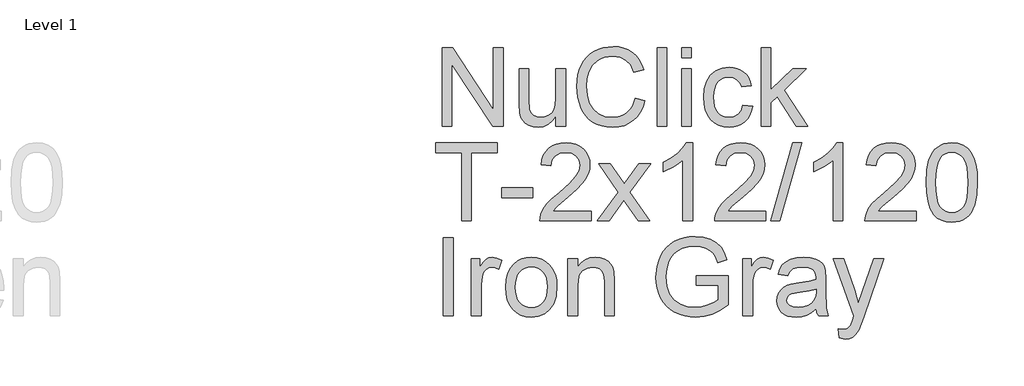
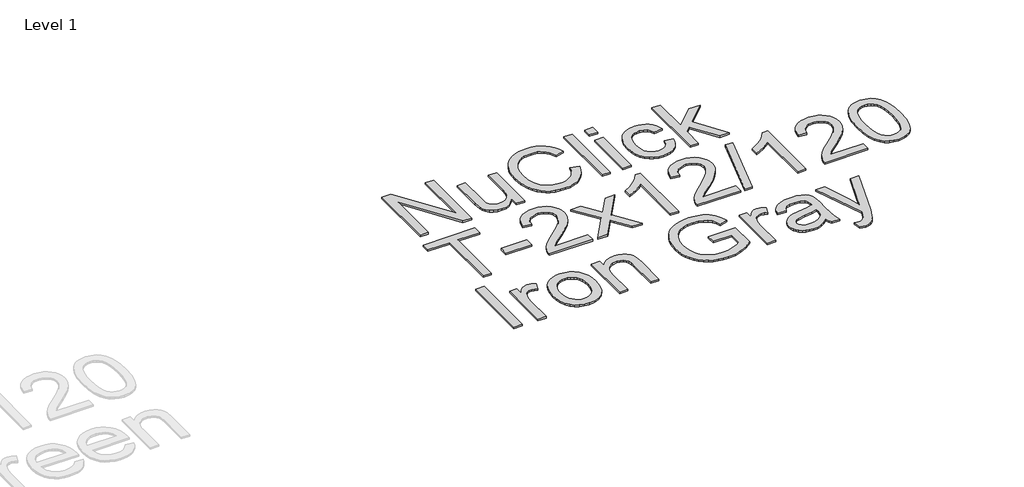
# One storey, part 10 of 13: 1 proxy.
"""IFC4 building model written with IfcOpenShell, lengths in millimetres."""

from ifc_helpers import new_model, si_unit, frame, origin, place, context, project, spatial, polyline, outline, extrude, element, save

model = new_model("IFC4")

# Units and contexts
model_context = context("Model", 3, world=origin())
ifc_project = project(units=[si_unit("LENGTHUNIT", "METRE", prefix="MILLI")], contexts=[model_context])

# Site, building, storey
site = spatial("IfcSite", under=ifc_project)
building = spatial("IfcBuilding", under=site)
storey = spatial("IfcBuildingStorey", under=building, Name="Level 1", Elevation=4000.0)

# Proxy
placement = place(None, origin())
element("IfcBuildingElementProxy", 1, Name="Elysium 400mm Arial", ObjectType="Elysium 400mm Arial", at=placement, inside=storey, context=model_context, shape_type="SweptSolid", body=[
    extrude(outline(polyline([(48183.147161, -9059.2083157), (48183.147161, -8657.3830752), (48236.9069832, -8657.3830752), (48446.8449751, -8975.7236283), (48446.8449751, -8657.3830752), (48497.0731302, -8657.3830752), (48497.0731302, -9059.2083157), (48443.313308, -9059.2083157), (48233.3753161, -8740.7696607), (48233.3753161, -9059.2083157), (48183.147161, -9059.2083157)])), frame((0.0, 0.0, 4000.0), z_axis=(0.0, 0.0, 1.0), x_axis=(1.0, 0.0, 0.0)), (0.0, 0.0, 1.0), 10.0),
    extrude(outline(polyline([(48767.0494637, -9059.2083157), (48767.0494637, -9008.4896513), (48748.8760932, -9033.4259193), (48727.7106157, -9051.2375392), (48703.5530314, -9061.9245111), (48676.4033401, -9065.4868351), (48651.9391875, -9062.9852376), (48629.167292, -9055.4804449), (48610.0619537, -9044.1987303), (48596.5974726, -9030.3663673), (48587.5353128, -9013.5664229), (48581.6369382, -8993.3819641), (48578.6938822, -8946.6854762), (48578.6938822, -8764.1179047), (48628.9220373, -8764.1179047), (48628.9220373, -8923.0429266), (48631.9631951, -8974.2521003), (48639.2840468, -8991.3340876), (48651.8288229, -9004.3203221), (48668.7636574, -9012.5240906), (48689.2546845, -9015.2586801), (48710.922934, -9012.4627769), (48731.1932319, -9004.0750674), (48747.9073373, -8990.8681038), (48758.9070089, -8973.6144382), (48765.01385, -8949.9841514), (48767.0494637, -8917.647324), (48767.0494637, -8764.1179047), (48817.2776188, -8764.1179047), (48817.2776188, -9059.2083157), (48767.0494637, -9059.2083157)])), frame((0.0, 0.0, 4000.0), z_axis=(0.0, 0.0, 1.0), x_axis=(1.0, 0.0, 0.0)), (0.0, 0.0, 1.0), 10.0),
    extrude(outline(polyline([(49175.1532237, -8916.3719998), (49225.3813788, -8929.321446), (49215.4424336, -8960.5576931), (49202.2048131, -8987.8514714), (49185.6685174, -9011.2027811), (49165.8335465, -9030.611622), (49143.1474901, -9045.8695277), (49118.0579381, -9056.7680318), (49090.5648903, -9063.3071343), (49060.6683468, -9065.4868351), (49030.039105, -9063.8374975), (49002.4081015, -9058.8894847), (48977.7753363, -9050.6427966), (48956.1408093, -9039.0974333), (48937.2071492, -9024.4250731), (48920.6769849, -9006.7973942), (48906.5503163, -8986.2143965), (48894.8271434, -8962.6760802), (48879.0450058, -8910.8047189), (48873.7842933, -8855.2545376), (48879.7317189, -8796.6631985), (48887.1660009, -8770.3657672), (48897.5739956, -8746.0671615), (48910.7227113, -8724.1689857), (48926.3791559, -8705.0728445), (48944.5433294, -8688.7787378), (48965.2152318, -8675.2866656), (48987.6928217, -8664.7069925), (49011.2740576, -8657.1500832), (49061.7474673, -8651.1045558), (49090.4759855, -8653.0604617), (49116.819402, -8658.9281795), (49140.777717, -8668.7077092), (49162.3509303, -8682.3990508), (49181.1834228, -8699.6404537), (49196.9195751, -8720.0701671), (49209.5593873, -8743.6881912), (49219.1028594, -8770.4945259), (49168.8747043, -8782.4629535), (49151.4616232, -8745.8341695), (49127.6719209, -8720.7078293), (49097.2112917, -8706.1764904), (49059.78543, -8701.3327108), (49016.6451347, -8706.703788), (48997.9628608, -8713.4176344), (48981.2058359, -8722.8170194), (48954.313662, -8747.9801478), (48936.8147418, -8780.5009162), (48927.2130217, -8817.2645903), (48924.0124484, -8855.1564358), (48927.8016329, -8901.5586181), (48939.1691866, -8941.682281), (48958.544305, -8973.9945829), (48986.3561838, -8996.9626822), (49019.6985553, -9010.6846806), (49055.6651517, -9015.2586801), (49077.5020138, -9013.7013129), (49097.5914364, -9009.0292116), (49115.9334196, -9001.242376), (49132.5279632, -8990.3408063), (49146.9826599, -8976.3735532), (49158.9051023, -8959.3896677), (49168.2952902, -8939.3891499), (49175.1532237, -8916.3719998)])), frame((0.0, 0.0, 4000.0), z_axis=(0.0, 0.0, 1.0), x_axis=(1.0, 0.0, 0.0)), (0.0, 0.0, 1.0), 10.0),
    extrude(outline(polyline([(49288.1665726, -9059.2083157), (49288.1665726, -8657.3830752), (49338.3947277, -8657.3830752), (49338.3947277, -9059.2083157), (49288.1665726, -9059.2083157)])), frame((0.0, 0.0, 4000.0), z_axis=(0.0, 0.0, 1.0), x_axis=(1.0, 0.0, 0.0)), (0.0, 0.0, 1.0), 10.0),
    extrude(outline(polyline([(49413.7369603, -8707.6112302), (49413.7369603, -8657.3830752), (49463.9651154, -8657.3830752), (49463.9651154, -8707.6112302), (49413.7369603, -8707.6112302)])), frame((0.0, 0.0, 4000.0), z_axis=(0.0, 0.0, 1.0), x_axis=(1.0, 0.0, 0.0)), (0.0, 0.0, 1.0), 10.0),
    extrude(outline(polyline([(49413.7369603, -9059.2083157), (49413.7369603, -8764.1179047), (49463.9651154, -8764.1179047), (49463.9651154, -9059.2083157), (49413.7369603, -9059.2083157)])), frame((0.0, 0.0, 4000.0), z_axis=(0.0, 0.0, 1.0), x_axis=(1.0, 0.0, 0.0)), (0.0, 0.0, 1.0), 10.0),
    extrude(outline(polyline([(49727.6629296, -8952.4734862), (49777.8910846, -8958.7520056), (49772.428037, -8982.4528031), (49763.8870433, -9003.4251425), (49752.2681037, -9021.6690238), (49737.571218, -9037.184447), (49720.4156542, -9049.5667418), (49701.4206806, -9058.4112381), (49680.5862969, -9063.7179359), (49657.9125033, -9065.4868351), (49629.7419395, -9063.0189601), (49604.4837748, -9055.6153349), (49582.1380093, -9043.2759597), (49562.7046429, -9026.0008343), (49546.9746219, -9004.1149213), (49535.7388927, -8977.943183), (49528.9974551, -8947.4856195), (49526.7503093, -8912.7422307), (49530.5885447, -8868.0445683), (49542.1032512, -8829.3065942), (49561.4783696, -8798.0243619), (49588.897841, -8775.6939248), (49621.7006522, -8762.3030202), (49657.2257902, -8757.8393853), (49679.5102421, -8759.3722269), (49699.6671097, -8763.9707519), (49717.6963932, -8771.6349601), (49733.5980924, -8782.3648516), (49747.1024273, -8795.9151718), (49757.9396178, -8812.0406659), (49766.1096637, -8830.741334), (49771.6125652, -8852.0171761), (49721.3844102, -8858.2956955), (49712.2731994, -8836.3821913), (49698.0852171, -8820.6736301), (49679.6052782, -8811.2190628), (49657.6181977, -8808.0675404), (49640.5515388, -8809.6187761), (49625.158743, -8814.2724834), (49611.4398102, -8822.0286621), (49599.3947406, -8832.8873123), (49589.5876197, -8847.0998201), (49582.5825334, -8864.9175714), (49578.3794816, -8886.3405662), (49576.9784643, -8911.3688046), (49582.4599061, -8958.4454373), (49589.3117082, -8976.3827502), (49598.9042312, -8990.5860609), (49610.7101776, -9001.3803318), (49624.2022498, -9009.0905253), (49639.3804478, -9013.7166414), (49656.2447716, -9015.2586801), (49682.2540286, -9011.4081818), (49703.5789216, -8999.8566872), (49719.0912791, -8980.3098905), (49727.6629296, -8952.4734862)])), frame((0.0, 0.0, 4000.0), z_axis=(0.0, 0.0, 1.0), x_axis=(1.0, 0.0, 0.0)), (0.0, 0.0, 1.0), 10.0),
    extrude(outline(polyline([(49821.8407203, -9059.2083157), (49821.8407203, -8657.3830752), (49872.0688754, -8657.3830752), (49872.0688754, -8873.3052809), (49984.6898168, -8764.1179047), (50054.1459375, -8764.1179047), (49940.15157, -8874.678707), (50060.4244569, -9059.2083157), (50001.7595414, -9059.2083157), (49904.1481854, -8909.602971), (49872.0688754, -8940.7012624), (49872.0688754, -9059.2083157), (49821.8407203, -9059.2083157)])), frame((0.0, 0.0, 4000.0), z_axis=(0.0, 0.0, 1.0), x_axis=(1.0, 0.0, 0.0)), (0.0, 0.0, 1.0), 10.0),
    extrude(outline(polyline([(48283.6034712, -9547.1075871), (48283.6034712, -9195.5105016), (48151.7545641, -9195.5105016), (48151.7545641, -9145.2823465), (48465.6805333, -9145.2823465), (48465.6805333, -9195.5105016), (48333.8316262, -9195.5105016), (48333.8316262, -9547.1075871), (48283.6034712, -9547.1075871)])), frame((0.0, 0.0, 4000.0), z_axis=(0.0, 0.0, 1.0), x_axis=(1.0, 0.0, 0.0)), (0.0, 0.0, 1.0), 10.0),
    extrude(outline(polyline([(48490.7946108, -9427.8157188), (48490.7946108, -9377.5875638), (48647.7575954, -9377.5875638), (48647.7575954, -9427.8157188), (48490.7946108, -9427.8157188)])), frame((0.0, 0.0, 4000.0), z_axis=(0.0, 0.0, 1.0), x_axis=(1.0, 0.0, 0.0)), (0.0, 0.0, 1.0), 10.0),
    extrude(outline(polyline([(48949.1265259, -9496.8794321), (48949.1265259, -9547.1075871), (48685.4287117, -9547.1075871), (48686.5323577, -9529.4247259), (48690.8243143, -9512.4776287), (48703.2096748, -9485.4137765), (48721.3339945, -9459.1592648), (48747.551718, -9431.6784798), (48784.2172902, -9400.9358077), (48838.4185708, -9352.7923173), (48870.9393392, -9317.2549165), (48887.1997234, -9288.4129681), (48892.6198514, -9260.3558346), (48887.5062917, -9235.2049689), (48872.1656125, -9214.2970088), (48848.5843766, -9200.2071284), (48818.7491468, -9195.5105016), (48787.4178635, -9200.0967638), (48763.0763382, -9213.8555504), (48747.367777, -9235.7077409), (48741.9353862, -9264.5742148), (48691.7072311, -9258.2956955), (48696.0267789, -9232.3661462), (48703.8841252, -9209.7107466), (48715.27927, -9190.3294968), (48730.2122133, -9174.2223968), (48748.3395986, -9161.5611248), (48769.3180694, -9152.5173591), (48793.1476256, -9147.0910997), (48819.8282673, -9145.2823465), (48846.7480323, -9147.2934348), (48870.7063473, -9153.3266995), (48891.7032121, -9163.3821407), (48909.7386269, -9177.4597584), (48924.2239805, -9194.5172202), (48934.5706616, -9213.5121939), (48940.7786703, -9234.4446794), (48942.8480065, -9257.3146768), (48940.6161891, -9281.3373711), (48933.9207368, -9304.9431324), (48922.0381483, -9328.953564), (48904.2449225, -9354.1902689), (48875.8812207, -9384.3198043), (48832.2872042, -9423.0087274), (48774.5052055, -9471.3238961), (48751.8436746, -9496.8794321), (48949.1265259, -9496.8794321)])), frame((0.0, 0.0, 4000.0), z_axis=(0.0, 0.0, 1.0), x_axis=(1.0, 0.0, 0.0)), (0.0, 0.0, 1.0), 10.0),
    extrude(outline(polyline([(48980.5191228, -9547.1075871), (49087.8425635, -9398.7775667), (48986.7976422, -9252.0171761), (49047.2283913, -9252.0171761), (49095.9850184, -9322.6505191), (49118.7446511, -9356.0051534), (49138.4631261, -9328.7328348), (49193.9887819, -9252.0171761), (49254.419531, -9252.0171761), (49148.2733126, -9398.7775667), (49250.4954563, -9547.1075871), (49190.0647073, -9547.1075871), (49128.5548377, -9457.9329915), (49117.2731232, -9441.6480818), (49040.9498719, -9547.1075871), (48980.5191228, -9547.1075871)])), frame((0.0, 0.0, 4000.0), z_axis=(0.0, 0.0, 1.0), x_axis=(1.0, 0.0, 0.0)), (0.0, 0.0, 1.0), 10.0),
    extrude(outline(polyline([(49470.2436348, -9547.1075871), (49420.0154797, -9547.1075871), (49420.0154797, -9233.9664328), (49399.046206, -9250.9257928), (49372.436075, -9267.8606273), (49319.5591696, -9293.2199595), (49319.5591696, -9245.7386567), (49359.0083822, -9224.2788736), (49393.1846195, -9198.7478632), (49420.1258443, -9171.5981719), (49437.8700192, -9145.2823465), (49470.2436348, -9145.2823465), (49470.2436348, -9547.1075871)])), frame((0.0, 0.0, 4000.0), z_axis=(0.0, 0.0, 1.0), x_axis=(1.0, 0.0, 0.0)), (0.0, 0.0, 1.0), 10.0),
    extrude(outline(polyline([(49846.9547979, -9496.8794321), (49846.9547979, -9547.1075871), (49583.2569837, -9547.1075871), (49584.3606297, -9529.4247259), (49588.6525863, -9512.4776287), (49601.0379468, -9485.4137765), (49619.1622664, -9459.1592648), (49645.37999, -9431.6784798), (49682.0455621, -9400.9358077), (49736.2468428, -9352.7923173), (49768.7676111, -9317.2549165), (49785.0279953, -9288.4129681), (49790.4481234, -9260.3558346), (49785.3345637, -9235.2049689), (49769.9938845, -9214.2970088), (49746.4126486, -9200.2071284), (49716.5774188, -9195.5105016), (49685.2461355, -9200.0967638), (49660.9046102, -9213.8555504), (49645.196049, -9235.7077409), (49639.7636582, -9264.5742148), (49589.5355031, -9258.2956955), (49593.8550509, -9232.3661462), (49601.7123971, -9209.7107466), (49613.1075419, -9190.3294968), (49628.0404853, -9174.2223968), (49646.1678706, -9161.5611248), (49667.1463413, -9152.5173591), (49690.9758976, -9147.0910997), (49717.6565393, -9145.2823465), (49744.5763043, -9147.2934348), (49768.5346192, -9153.3266995), (49789.5314841, -9163.3821407), (49807.5668989, -9177.4597584), (49822.0522525, -9194.5172202), (49832.3989336, -9213.5121939), (49838.6069422, -9234.4446794), (49840.6762785, -9257.3146768), (49838.444461, -9281.3373711), (49831.7490087, -9304.9431324), (49819.8664203, -9328.953564), (49802.0731944, -9354.1902689), (49773.7094926, -9384.3198043), (49730.1154762, -9423.0087274), (49672.3334775, -9471.3238961), (49649.6719466, -9496.8794321), (49846.9547979, -9496.8794321)])), frame((0.0, 0.0, 4000.0), z_axis=(0.0, 0.0, 1.0), x_axis=(1.0, 0.0, 0.0)), (0.0, 0.0, 1.0), 10.0),
    extrude(outline(polyline([(49872.0688754, -9547.1075871), (49985.0822243, -9145.2823465), (50030.4052861, -9145.2823465), (49917.3919372, -9547.1075871), (49872.0688754, -9547.1075871)])), frame((0.0, 0.0, 4000.0), z_axis=(0.0, 0.0, 1.0), x_axis=(1.0, 0.0, 0.0)), (0.0, 0.0, 1.0), 10.0),
    extrude(outline(polyline([(50242.5015191, -9547.1075871), (50192.273364, -9547.1075871), (50192.273364, -9233.9664328), (50171.3040903, -9250.9257928), (50144.6939593, -9267.8606273), (50091.8170538, -9293.2199595), (50091.8170538, -9245.7386567), (50131.2662665, -9224.2788736), (50165.4425038, -9198.7478632), (50192.3837286, -9171.5981719), (50210.1279035, -9145.2823465), (50242.5015191, -9145.2823465), (50242.5015191, -9547.1075871)])), frame((0.0, 0.0, 4000.0), z_axis=(0.0, 0.0, 1.0), x_axis=(1.0, 0.0, 0.0)), (0.0, 0.0, 1.0), 10.0),
    extrude(outline(polyline([(50619.2126821, -9496.8794321), (50619.2126821, -9547.1075871), (50355.514868, -9547.1075871), (50356.618514, -9529.4247259), (50360.9104706, -9512.4776287), (50373.2958311, -9485.4137765), (50391.4201507, -9459.1592648), (50417.6378742, -9431.6784798), (50454.3034464, -9400.9358077), (50508.504727, -9352.7923173), (50541.0254954, -9317.2549165), (50557.2858796, -9288.4129681), (50562.7060077, -9260.3558346), (50557.5924479, -9235.2049689), (50542.2517687, -9214.2970088), (50518.6705328, -9200.2071284), (50488.835303, -9195.5105016), (50457.5040198, -9200.0967638), (50433.1624944, -9213.8555504), (50417.4539332, -9235.7077409), (50412.0215424, -9264.5742148), (50361.7933874, -9258.2956955), (50366.1129351, -9232.3661462), (50373.9702814, -9209.7107466), (50385.3654262, -9190.3294968), (50400.2983695, -9174.2223968), (50418.4257548, -9161.5611248), (50439.4042256, -9152.5173591), (50463.2337819, -9147.0910997), (50489.9144236, -9145.2823465), (50516.8341886, -9147.2934348), (50540.7925035, -9153.3266995), (50561.7893684, -9163.3821407), (50579.8247832, -9177.4597584), (50594.3101367, -9194.5172202), (50604.6568179, -9213.5121939), (50610.8648265, -9234.4446794), (50612.9341627, -9257.3146768), (50610.7023453, -9281.3373711), (50604.006893, -9304.9431324), (50592.1243046, -9328.953564), (50574.3310787, -9354.1902689), (50545.9673769, -9384.3198043), (50502.3733605, -9423.0087274), (50444.5913618, -9471.3238961), (50421.9298308, -9496.8794321), (50619.2126821, -9496.8794321)])), frame((0.0, 0.0, 4000.0), z_axis=(0.0, 0.0, 1.0), x_axis=(1.0, 0.0, 0.0)), (0.0, 0.0, 1.0), 10.0),
    extrude(outline(polyline([(50669.4408372, -9349.4323284), (50673.1319199, -9285.1142929), (50684.2051679, -9233.81928), (50702.5502168, -9194.7624749), (50714.4082797, -9179.5290946), (50728.0567018, -9167.1590625), (50743.5414681, -9157.5879993), (50760.9085639, -9150.7515255), (50801.2897443, -9145.2823465), (50832.2408828, -9148.5197081), (50859.9546598, -9158.2317928), (50883.1312255, -9174.0384558), (50900.4707302, -9195.5595525), (50913.5673292, -9222.6111419), (50924.0151779, -9255.009283), (50930.857783, -9296.1507528), (50933.1386513, -9349.4323284), (50929.4843569, -9413.3824819), (50918.5214734, -9464.5548674), (50900.2867892, -9503.6484608), (50888.4563173, -9518.9278263), (50874.8170924, -9531.3622377), (50859.313932, -9540.9976803), (50841.8916538, -9547.8801393), (50801.2897443, -9553.3861065), (50773.6250182, -9550.9948735), (50749.0995519, -9543.8211746), (50727.7133452, -9531.8650098), (50709.4663983, -9515.126379), (50691.9552153, -9484.8680849), (50679.4472275, -9447.1663118), (50671.9424348, -9402.0210596), (50669.4408372, -9349.4323284)]), holes=[polyline([(50719.6689923, -9349.3342265), (50721.1405203, -9392.9987537), (50725.5551042, -9428.3430164), (50732.9127441, -9455.3670146), (50743.21344, -9474.0707484), (50755.6723769, -9486.7963997), (50769.5047399, -9495.8861507), (50784.710529, -9501.3400012), (50801.2897443, -9503.1579514), (50817.8689595, -9501.3338699), (50833.0747487, -9495.8616252), (50846.9071117, -9486.7412174), (50859.3660486, -9473.9726465), (50869.6667444, -9455.2382559), (50877.0243843, -9428.220389), (50881.4389683, -9392.9190459), (50882.9104963, -9349.3342265), (50881.4880192, -9306.825462), (50877.2205881, -9272.103533), (50870.1082028, -9245.1684396), (50860.1508635, -9226.0201817), (50847.9003931, -9212.6721967), (50833.9086145, -9203.1379216), (50818.1755279, -9197.4173566), (50800.7011331, -9195.5105016), (50784.207757, -9197.1904961), (50769.2594852, -9202.2304794), (50755.8563179, -9210.6304516), (50743.9982549, -9222.3904127), (50733.3542025, -9243.2370591), (50725.7513079, -9271.3432435), (50721.1895712, -9306.708966), (50719.6689923, -9349.3342265)])]), frame((0.0, 0.0, 4000.0), z_axis=(0.0, 0.0, 1.0), x_axis=(1.0, 0.0, 0.0)), (0.0, 0.0, 1.0), 10.0),
    extrude(outline(polyline([(48189.4256804, -10035.0068585), (48189.4256804, -9633.1816179), (48239.6538355, -9633.1816179), (48239.6538355, -10035.0068585), (48189.4256804, -10035.0068585)])), frame((0.0, 0.0, 4000.0), z_axis=(0.0, 0.0, 1.0), x_axis=(1.0, 0.0, 0.0)), (0.0, 0.0, 1.0), 10.0),
    extrude(outline(polyline([(48333.8316262, -10035.0068585), (48333.8316262, -9739.9164474), (48377.7812619, -9739.9164474), (48377.7812619, -9783.5717775), (48394.0171206, -9758.2614963), (48408.9776551, -9743.3500127), (48423.9872405, -9736.0659492), (48440.370252, -9733.6379281), (48465.3862277, -9737.5129517), (48490.7946108, -9749.1380228), (48474.0191919, -9794.166779), (48456.3608561, -9786.4412571), (48438.7025203, -9783.8660831), (48423.7051976, -9786.3431552), (48410.3020303, -9793.7743715), (48399.4740369, -9805.5956463), (48392.2022361, -9821.2428938), (48386.095395, -9849.3000273), (48384.0597813, -9879.9078093), (48384.0597813, -10035.0068585), (48333.8316262, -10035.0068585)])), frame((0.0, 0.0, 4000.0), z_axis=(0.0, 0.0, 1.0), x_axis=(1.0, 0.0, 0.0)), (0.0, 0.0, 1.0), 10.0),
    extrude(outline(polyline([(48509.630169, -9887.461653), (48512.3463644, -9849.244845), (48520.4949506, -9816.3132751), (48534.0759276, -9788.6669432), (48553.0892954, -9766.3058492), (48572.2314218, -9752.0136337), (48593.3601111, -9741.8049084), (48616.4753631, -9735.6796731), (48641.5771779, -9733.6379281), (48669.2878892, -9736.1241972), (48694.3437188, -9743.5830047), (48716.7446666, -9756.0143504), (48736.4907327, -9773.4182345), (48752.6070298, -9795.2060456), (48764.1186705, -9820.7891727), (48771.025655, -9850.1676157), (48773.3279831, -9883.3413746), (48769.2567557, -9934.0845645), (48757.0430735, -9972.712174), (48737.0425557, -10001.6399615), (48709.6108216, -10023.2836856), (48677.0287395, -10036.7849548), (48641.5771779, -10041.2853779), (48613.4617964, -10038.8083058), (48588.172975, -10031.3770895), (48565.7107135, -10018.991729), (48546.075012, -10001.6522243), (48530.1303932, -9979.652881), (48518.7413797, -9953.2880046), (48511.9079717, -9922.5575953), (48509.630169, -9887.461653)]), holes=[polyline([(48559.8583241, -9887.3635511), (48561.3114579, -9911.7265362), (48565.6708596, -9932.821503), (48572.936529, -9950.6484513), (48583.1084662, -9965.2073813), (48595.4815639, -9976.516687), (48609.3507151, -9984.5947624), (48624.7159198, -9989.4416077), (48641.5771779, -9991.0572228), (48658.3525969, -9989.4324107), (48673.6564879, -9984.5579742), (48687.4888509, -9976.4339135), (48699.849686, -9965.0602285), (48710.0216231, -9950.3572114), (48717.2872925, -9932.2451545), (48721.6466942, -9910.7240578), (48723.0998281, -9885.7939213), (48721.6374971, -9862.2034883), (48717.2505043, -9841.6603446), (48709.9388497, -9824.16449), (48699.7025332, -9809.7159247), (48687.2957129, -9798.406619), (48673.4725469, -9790.3285435), (48658.2330353, -9785.4816982), (48641.5771779, -9783.8660831), (48624.7159198, -9785.4755669), (48609.3507151, -9790.3040181), (48595.4815639, -9798.3514367), (48583.1084662, -9809.6178228), (48572.936529, -9824.1338332), (48565.6708596, -9841.9301247), (48561.3114579, -9863.0066974), (48559.8583241, -9887.3635511)])]), frame((0.0, 0.0, 4000.0), z_axis=(0.0, 0.0, 1.0), x_axis=(1.0, 0.0, 0.0)), (0.0, 0.0, 1.0), 10.0),
    extrude(outline(polyline([(48829.8346576, -10035.0068585), (48829.8346576, -9739.9164474), (48880.0628127, -9739.9164474), (48880.0628127, -9781.1192309), (48897.512682, -9760.3461609), (48918.469693, -9745.5082538), (48942.9338456, -9736.6055095), (48970.90514, -9733.6379281), (48995.6635983, -9736.029161), (49018.3373919, -9743.2028599), (49037.2465265, -9754.2638453), (49050.7110075, -9768.3169375), (49059.8467437, -9785.3253484), (49065.7696438, -9805.2522898), (49068.4183942, -9853.8127132), (49068.4183942, -10035.0068585), (49018.1902391, -10035.0068585), (49018.1902391, -9860.5817419), (49016.7432366, -9834.609273), (49012.4022291, -9816.1415968), (49004.3946643, -9802.9101078), (48991.9479901, -9792.6462001), (48975.9941743, -9786.0611124), (48957.4651844, -9783.8660831), (48928.0468876, -9788.7957019), (48902.9695982, -9803.5845581), (48892.9478795, -9815.6572189), (48885.7895091, -9832.1567264), (48881.4944868, -9853.0830805), (48880.0628127, -9878.4362814), (48880.0628127, -10035.0068585), (48829.8346576, -10035.0068585)])), frame((0.0, 0.0, 4000.0), z_axis=(0.0, 0.0, 1.0), x_axis=(1.0, 0.0, 0.0)), (0.0, 0.0, 1.0), 10.0),
    extrude(outline(polyline([(49489.0791929, -9878.0438739), (49489.0791929, -9827.8157188), (49652.3206969, -9827.8157188), (49652.3206969, -9978.0096747), (49612.6507551, -10005.6008244), (49571.7300145, -10025.3928757), (49529.656577, -10037.3122523), (49486.5285444, -10041.2853779), (49457.677399, -10039.706551), (49430.1812855, -10034.9700703), (49404.0402041, -10027.0759358), (49379.2541547, -10016.0241476), (49356.6232806, -10001.9802524), (49336.9477252, -9985.1097972), (49320.2274885, -9965.4127821), (49306.4625705, -9942.8892069), (49295.7112192, -9918.2595073), (49288.0316826, -9892.2441189), (49283.4239606, -9864.8430416), (49281.8880533, -9836.0562755), (49288.0071571, -9779.4637619), (49295.6560369, -9752.6482302), (49306.3644687, -9726.8198484), (49319.94238, -9703.1129195), (49336.1996985, -9682.6617463), (49355.1364242, -9665.4663287), (49376.7525571, -9651.5266667), (49400.5790476, -9640.7538556), (49426.1468463, -9633.0589906), (49453.4559531, -9628.4420715), (49482.506368, -9626.9030985), (49523.8808297, -9630.4715539), (49561.0859621, -9641.1769199), (49592.4172454, -9658.2466445), (49616.1701595, -9680.9081754), (49633.7426562, -9710.2528959), (49646.5326869, -9747.3721892), (49600.2286064, -9760.4197373), (49589.8911224, -9733.9444964), (49577.3218209, -9713.9685041), (49560.6935547, -9698.9098677), (49538.1791766, -9687.1866948), (49511.3360537, -9679.6451139), (49481.721553, -9677.1312536), (49447.0548064, -9679.8413176), (49417.4157803, -9687.9715097), (49392.9148394, -9700.504023), (49373.6623483, -9716.4210507), (49358.8857549, -9734.9009896), (49347.8125068, -9755.1222366), (49336.040283, -9793.0386076), (49332.1162083, -9833.9961363), (49336.8373606, -9882.0292622), (49351.0008174, -9921.5520512), (49374.1773831, -9952.2824605), (49405.937862, -9973.9384473), (49443.1062063, -9986.7775289), (49482.506368, -9991.0572228), (49517.295742, -9987.832124), (49551.2267247, -9978.1568275), (49580.6940725, -9964.8272366), (49602.0925419, -9950.6392543), (49602.0925419, -9878.0438739), (49489.0791929, -9878.0438739)])), frame((0.0, 0.0, 4000.0), z_axis=(0.0, 0.0, 1.0), x_axis=(1.0, 0.0, 0.0)), (0.0, 0.0, 1.0), 10.0),
    extrude(outline(polyline([(49727.6629296, -10035.0068585), (49727.6629296, -9739.9164474), (49771.6125652, -9739.9164474), (49771.6125652, -9783.5717775), (49787.848424, -9758.2614963), (49802.8089584, -9743.3500127), (49817.8185438, -9736.0659492), (49834.2015554, -9733.6379281), (49859.217531, -9737.5129517), (49884.6259142, -9749.1380228), (49867.8504952, -9794.166779), (49850.1921594, -9786.4412571), (49832.5338236, -9783.8660831), (49817.536501, -9786.3431552), (49804.1333336, -9793.7743715), (49793.3053402, -9805.5956463), (49786.0335395, -9821.2428938), (49779.9266983, -9849.3000273), (49777.8910846, -9879.9078093), (49777.8910846, -10035.0068585), (49727.6629296, -10035.0068585)])), frame((0.0, 0.0, 4000.0), z_axis=(0.0, 0.0, 1.0), x_axis=(1.0, 0.0, 0.0)), (0.0, 0.0, 1.0), 10.0),
    extrude(outline(polyline([(50104.3740926, -9997.3357422), (50080.3759238, -10017.9126085), (50055.6665165, -10031.3770895), (50029.6817849, -10038.8083058), (50001.8576433, -10041.2853779), (49979.4934837, -10039.7954558), (49959.8823076, -10035.3256896), (49943.0241152, -10027.8760792), (49928.9189064, -10017.4466246), (49917.781279, -10004.6995135), (49909.8258308, -9990.2969334), (49905.0525619, -9974.2388843), (49903.4614723, -9956.5253662), (49905.864968, -9935.7032453), (49913.0754551, -9916.7941107), (49924.1977541, -9900.6073029), (49938.3366855, -9887.9521623), (49954.9526889, -9878.3872304), (49973.5062042, -9871.4710489), (50016.9653306, -9863.9172053), (50068.3216571, -9855.9709542), (50104.079787, -9846.651277), (50104.3740926, -9835.4676643), (50100.9160019, -9813.0513881), (50090.5417296, -9798.3851592), (50067.3406384, -9787.4958522), (50035.0160738, -9783.8660831), (50005.0950048, -9786.2818416), (49984.1993075, -9793.5291169), (49969.9500116, -9806.9322842), (49959.9681468, -9827.8157188), (49909.7399917, -9821.5371994), (49918.458795, -9794.0686771), (49931.4695549, -9772.4862668), (49949.986282, -9755.9806279), (49975.2229868, -9743.7424202), (50006.0882862, -9736.1640511), (50041.4907969, -9733.6379281), (50075.4463051, -9735.8697455), (50102.3630044, -9742.5651978), (50122.6578278, -9752.6329017), (50136.7477082, -9764.9814741), (50146.0919109, -9780.2485769), (50152.1497011, -9799.0718723), (50154.6022477, -9843.021508), (50154.6022477, -9905.5123962), (50157.1528962, -9992.7740055), (50167.1592865, -10035.0068585), (50116.9311314, -10035.0068585), (50108.8867784, -10017.5447265), (50104.3740926, -9997.3357422)]), holes=[polyline([(50104.3740926, -9896.8794321), (50070.6270509, -9905.2426161), (50023.3419518, -9912.2814249), (49980.1280801, -9920.4238797), (49968.8831538, -9925.9911606), (49960.556758, -9933.6676316), (49955.40641, -9942.8646815), (49953.6896274, -9952.9936991), (49957.429761, -9967.9297081), (49968.6501619, -9980.1679158), (49987.1055753, -9988.3348961), (50012.5507466, -9991.0572228), (50039.5287596, -9988.0528532), (50063.3675129, -9979.0397443), (50082.6935804, -9965.7592043), (50096.1335359, -9949.9525412), (50102.0932242, -9933.6676316), (50104.079787, -9911.1042025), (50104.3740926, -9896.8794321)])]), frame((0.0, 0.0, 4000.0), z_axis=(0.0, 0.0, 1.0), x_axis=(1.0, 0.0, 0.0)), (0.0, 0.0, 1.0), 10.0),
    extrude(outline(polyline([(50223.6659609, -10148.0202074), (50217.3874415, -10099.6559878), (50242.8939265, -10104.0705717), (50256.3093566, -10102.6848829), (50266.7326798, -10098.5278163), (50281.3498578, -10083.0767725), (50295.0841189, -10046.0923693), (50299.0081935, -10033.927738), (50192.273364, -9739.9164474), (50245.2483713, -9739.9164474), (50301.8531476, -9903.7465626), (50321.5716226, -9969.2786087), (50341.2900975, -9911.3985081), (50399.4645037, -9739.9164474), (50452.0471035, -9739.9164474), (50349.3344505, -10042.0701928), (50322.6507431, -10107.6022389), (50308.9900583, -10128.5224617), (50293.5144891, -10143.0170123), (50275.5373222, -10151.4782982), (50254.3718448, -10154.2987268), (50223.6659609, -10148.0202074)])), frame((0.0, 0.0, 4000.0), z_axis=(0.0, 0.0, 1.0), x_axis=(1.0, 0.0, 0.0)), (0.0, 0.0, 1.0), 10.0),
])

save(model, "model.ifc")
